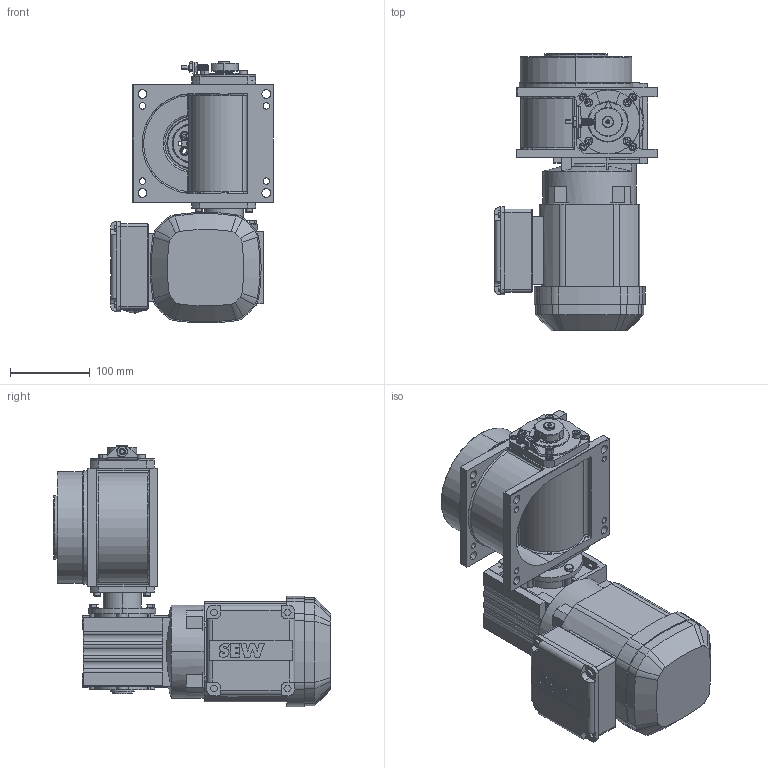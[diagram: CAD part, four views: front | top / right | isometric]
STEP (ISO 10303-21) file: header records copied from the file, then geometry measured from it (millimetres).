
FILE_DESCRIPTION (( 'STEP AP214' ), '1' );
FILE_NAME ('M140_SEW_WA20DRS71S4_D2.STEP', '2021-01-22T15:26:21', ( '' ), ( '' ), 'SwSTEP 2.0', 'SolidWorks 2020', '' );
FILE_SCHEMA (( 'AUTOMOTIVE_DESIGN' ));
Length unit declared in the file: millimetre
Products named in the file (1): M140_SEW_WA20DRS71S4_D2
Bounding box: 204 x 347.2 x 327.89 mm (x, y, z)
Surface area: 414866.6 mm2 (no closed solid volume)
Topology: 0 solids, 49 shells, 1116 faces, 3448 edges, 2298 vertices
Faces by surface type: plane 505, cylinder 400, cone 99, bspline 67, torus 45
Entity records: 57369 total; most frequent: CARTESIAN_POINT 15003, DIRECTION 6214, ORIENTED_EDGE 5972, EDGE_CURVE 3421, VERTEX_POINT 2298, AXIS2_PLACEMENT_3D 2170, VECTOR 1874, LINE 1874
